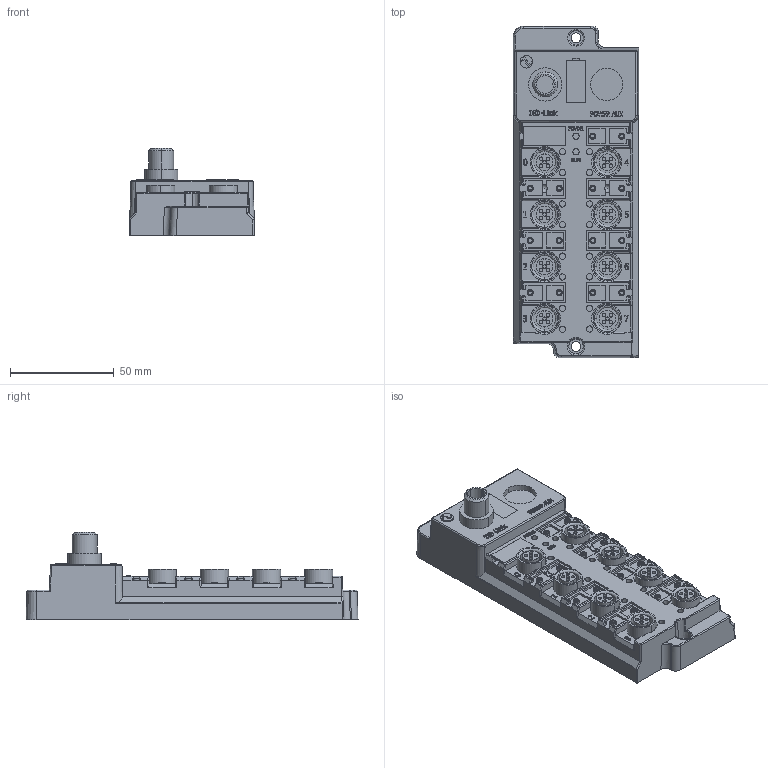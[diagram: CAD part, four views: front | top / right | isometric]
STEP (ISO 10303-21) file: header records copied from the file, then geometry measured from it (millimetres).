
FILE_DESCRIPTION(/* description */ (''),/* implementation_level */ '2;1');
FILE_NAME(/* name */ 'SIOL-8M12-16DI.stp',/* time_stamp */ '2022-05-10T14:59:19+08:00',/* author */ (''),/* organization */ (''),/* preprocessor_version */ 'ST-DEVELOPER v16',/* originating_system */ 'SIEMENS PLM Software NX 10.0',/* authorisation */ '');
FILE_SCHEMA (('CONFIG_CONTROL_DESIGN'));
Products named in the file (1): SIOL-8M12-16DI_stp
Bounding box: 60.6 x 159.95 x 41.92 mm (x, y, z)
Volume: 65088.2 mm3; surface area: 71821.2 mm2
Topology: 13 solids, 13 shells, 1942 faces, 5119 edges, 3369 vertices
Faces by surface type: plane 966, cylinder 455, cone 333, bspline 120, torus 48, sphere 20
Entity records: 64379 total; most frequent: CARTESIAN_POINT 17075, ORIENTED_EDGE 10224, DIRECTION 9255, EDGE_CURVE 5112, VERTEX_POINT 3365, AXIS2_PLACEMENT_3D 3179, LINE 2897, VECTOR 2897
